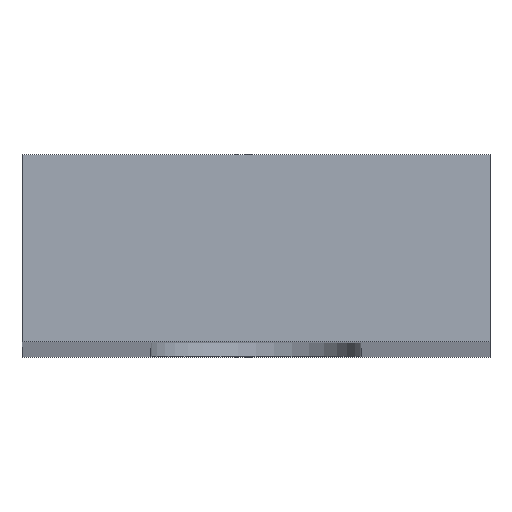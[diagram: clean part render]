
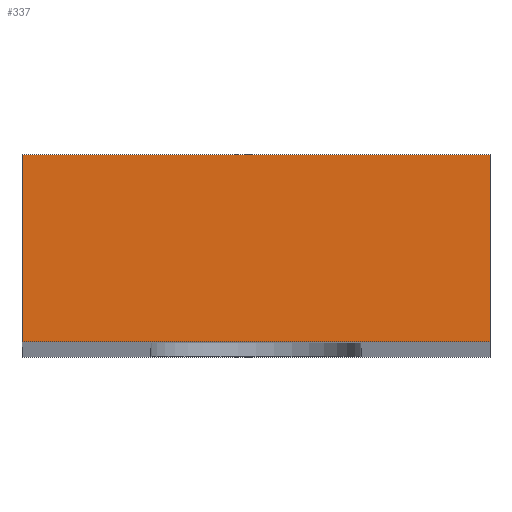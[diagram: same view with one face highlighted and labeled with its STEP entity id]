
A CAD part, top view. The second image highlights one B-rep face of the part: STEP entity #337.
In plain terms, the highlighted planar face has unit normal (0, 0, 1).
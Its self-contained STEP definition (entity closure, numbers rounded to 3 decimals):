
#24 = VERTEX_POINT('',#25);
#25 = CARTESIAN_POINT('',(-35.,-28.,95.));
#32 = PLANE('',#33);
#33 = AXIS2_PLACEMENT_3D('',#34,#35,#36);
#34 = CARTESIAN_POINT('',(-35.,-28.,-95.));
#35 = DIRECTION('',(-1.,-0.,0.));
#36 = DIRECTION('',(0.,0.,-1.));
#44 = PLANE('',#45);
#45 = AXIS2_PLACEMENT_3D('',#46,#47,#48);
#46 = CARTESIAN_POINT('',(-35.,-28.,-95.));
#47 = DIRECTION('',(-0.,1.,0.));
#48 = DIRECTION('',(0.,0.,-1.));
#85 = VERTEX_POINT('',#86);
#86 = CARTESIAN_POINT('',(-35.,-24.,95.));
#100 = PLANE('',#101);
#101 = AXIS2_PLACEMENT_3D('',#102,#103,#104);
#102 = CARTESIAN_POINT('',(-35.,-24.,-95.));
#103 = DIRECTION('',(-0.,1.,0.));
#104 = DIRECTION('',(0.,0.,-1.));
#112 = EDGE_CURVE('',#24,#85,#113,.T.);
#113 = SURFACE_CURVE('',#114,(#118,#125),.PCURVE_S1.);
#114 = LINE('',#115,#116);
#115 = CARTESIAN_POINT('',(-35.,-28.,95.));
#116 = VECTOR('',#117,1.);
#117 = DIRECTION('',(-0.,1.,0.));
#118 = PCURVE('',#32,#119);
#119 = DEFINITIONAL_REPRESENTATION('',(#120),#124);
#120 = LINE('',#121,#122);
#121 = CARTESIAN_POINT('',(-190.,-0.));
#122 = VECTOR('',#123,1.);
#123 = DIRECTION('',(-0.,-1.));
#124 = ( GEOMETRIC_REPRESENTATION_CONTEXT(2)
PARAMETRIC_REPRESENTATION_CONTEXT() REPRESENTATION_CONTEXT('2D SPACE',''
  ) );
#125 = PCURVE('',#126,#131);
#126 = PLANE('',#127);
#127 = AXIS2_PLACEMENT_3D('',#128,#129,#130);
#128 = CARTESIAN_POINT('',(-35.,-28.,95.));
#129 = DIRECTION('',(0.,0.,1.));
#130 = DIRECTION('',(1.,0.,0.));
#131 = DEFINITIONAL_REPRESENTATION('',(#132),#136);
#132 = LINE('',#133,#134);
#133 = CARTESIAN_POINT('',(0.,-0.));
#134 = VECTOR('',#135,1.);
#135 = DIRECTION('',(-0.,1.));
#136 = ( GEOMETRIC_REPRESENTATION_CONTEXT(2)
PARAMETRIC_REPRESENTATION_CONTEXT() REPRESENTATION_CONTEXT('2D SPACE',''
  ) );
#165 = EDGE_CURVE('',#24,#166,#168,.T.);
#166 = VERTEX_POINT('',#167);
#167 = CARTESIAN_POINT('',(-45.,-28.,95.));
#168 = SURFACE_CURVE('',#169,(#173,#180),.PCURVE_S1.);
#169 = LINE('',#170,#171);
#170 = CARTESIAN_POINT('',(-35.,-28.,95.));
#171 = VECTOR('',#172,1.);
#172 = DIRECTION('',(-1.,-0.,0.));
#173 = PCURVE('',#44,#174);
#174 = DEFINITIONAL_REPRESENTATION('',(#175),#179);
#175 = LINE('',#176,#177);
#176 = CARTESIAN_POINT('',(-190.,-0.));
#177 = VECTOR('',#178,1.);
#178 = DIRECTION('',(-0.,1.));
#179 = ( GEOMETRIC_REPRESENTATION_CONTEXT(2)
PARAMETRIC_REPRESENTATION_CONTEXT() REPRESENTATION_CONTEXT('2D SPACE',''
  ) );
#180 = PCURVE('',#126,#181);
#181 = DEFINITIONAL_REPRESENTATION('',(#182),#186);
#182 = LINE('',#183,#184);
#183 = CARTESIAN_POINT('',(0.,-0.));
#184 = VECTOR('',#185,1.);
#185 = DIRECTION('',(-1.,0.));
#186 = ( GEOMETRIC_REPRESENTATION_CONTEXT(2)
PARAMETRIC_REPRESENTATION_CONTEXT() REPRESENTATION_CONTEXT('2D SPACE',''
  ) );
#202 = PLANE('',#203);
#203 = AXIS2_PLACEMENT_3D('',#204,#205,#206);
#204 = CARTESIAN_POINT('',(-45.,-28.,-95.));
#205 = DIRECTION('',(-1.,-0.,0.));
#206 = DIRECTION('',(0.,0.,-1.));
#337 = ADVANCED_FACE('',(#338),#126,.T.);
#338 = FACE_BOUND('',#339,.F.);
#339 = EDGE_LOOP('',(#340,#341,#342,#365));
#340 = ORIENTED_EDGE('',*,*,#112,.F.);
#341 = ORIENTED_EDGE('',*,*,#165,.T.);
#342 = ORIENTED_EDGE('',*,*,#343,.T.);
#343 = EDGE_CURVE('',#166,#344,#346,.T.);
#344 = VERTEX_POINT('',#345);
#345 = CARTESIAN_POINT('',(-45.,-24.,95.));
#346 = SURFACE_CURVE('',#347,(#351,#358),.PCURVE_S1.);
#347 = LINE('',#348,#349);
#348 = CARTESIAN_POINT('',(-45.,-28.,95.));
#349 = VECTOR('',#350,1.);
#350 = DIRECTION('',(-0.,1.,0.));
#351 = PCURVE('',#126,#352);
#352 = DEFINITIONAL_REPRESENTATION('',(#353),#357);
#353 = LINE('',#354,#355);
#354 = CARTESIAN_POINT('',(-10.,0.));
#355 = VECTOR('',#356,1.);
#356 = DIRECTION('',(-0.,1.));
#357 = ( GEOMETRIC_REPRESENTATION_CONTEXT(2)
PARAMETRIC_REPRESENTATION_CONTEXT() REPRESENTATION_CONTEXT('2D SPACE',''
  ) );
#358 = PCURVE('',#202,#359);
#359 = DEFINITIONAL_REPRESENTATION('',(#360),#364);
#360 = LINE('',#361,#362);
#361 = CARTESIAN_POINT('',(-190.,-0.));
#362 = VECTOR('',#363,1.);
#363 = DIRECTION('',(-0.,-1.));
#364 = ( GEOMETRIC_REPRESENTATION_CONTEXT(2)
PARAMETRIC_REPRESENTATION_CONTEXT() REPRESENTATION_CONTEXT('2D SPACE',''
  ) );
#365 = ORIENTED_EDGE('',*,*,#366,.F.);
#366 = EDGE_CURVE('',#85,#344,#367,.T.);
#367 = SURFACE_CURVE('',#368,(#372,#379),.PCURVE_S1.);
#368 = LINE('',#369,#370);
#369 = CARTESIAN_POINT('',(-35.,-24.,95.));
#370 = VECTOR('',#371,1.);
#371 = DIRECTION('',(-1.,-0.,0.));
#372 = PCURVE('',#126,#373);
#373 = DEFINITIONAL_REPRESENTATION('',(#374),#378);
#374 = LINE('',#375,#376);
#375 = CARTESIAN_POINT('',(0.,4.));
#376 = VECTOR('',#377,1.);
#377 = DIRECTION('',(-1.,0.));
#378 = ( GEOMETRIC_REPRESENTATION_CONTEXT(2)
PARAMETRIC_REPRESENTATION_CONTEXT() REPRESENTATION_CONTEXT('2D SPACE',''
  ) );
#379 = PCURVE('',#100,#380);
#380 = DEFINITIONAL_REPRESENTATION('',(#381),#385);
#381 = LINE('',#382,#383);
#382 = CARTESIAN_POINT('',(-190.,-0.));
#383 = VECTOR('',#384,1.);
#384 = DIRECTION('',(-0.,1.));
#385 = ( GEOMETRIC_REPRESENTATION_CONTEXT(2)
PARAMETRIC_REPRESENTATION_CONTEXT() REPRESENTATION_CONTEXT('2D SPACE',''
  ) );
